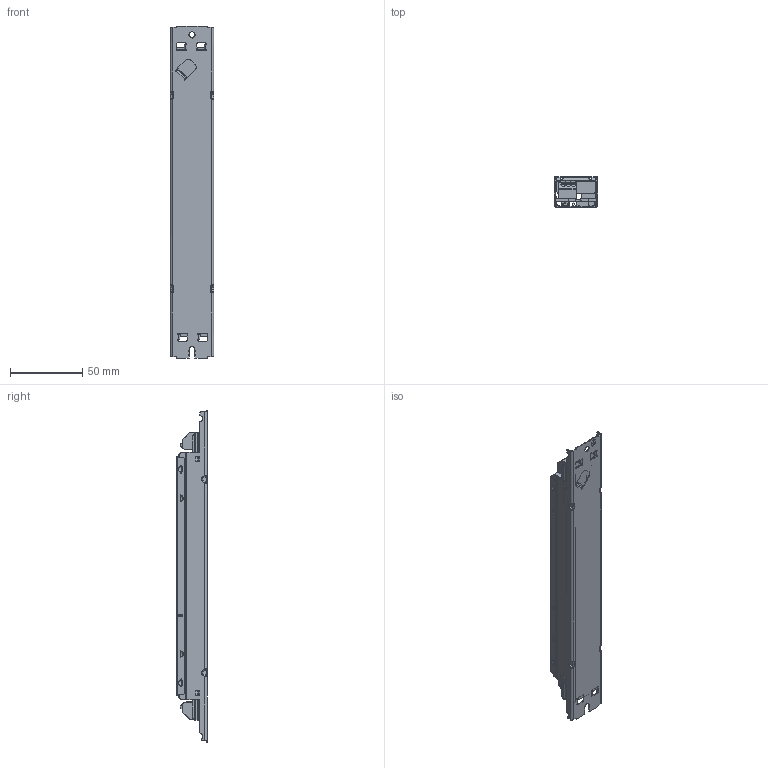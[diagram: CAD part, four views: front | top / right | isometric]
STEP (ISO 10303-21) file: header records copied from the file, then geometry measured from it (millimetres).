
FILE_DESCRIPTION((''),'2;1');
FILE_NAME('15014527Z_DATAMEC_230X30X21','2021-05-12T17:02:34',('elon.guo'),(''),'CREO PARAMETRIC BY PTC INC, 2019164','CREO PARAMETRIC BY PTC INC, 2019164','');
FILE_SCHEMA(('CONFIG_CONTROL_DESIGN'));
Products named in the file (1): 15014527Z_DATAMEC_230X30X21
Bounding box: 30 x 21 x 230 mm (x, y, z)
Volume: 19147.4 mm3; surface area: 91548.2 mm2
Topology: 1 solids, 23 shells, 1828 faces, 4856 edges, 2999 vertices
Faces by surface type: plane 996, cylinder 609, bspline 151, cone 40, sphere 24, torus 8
Entity records: 63411 total; most frequent: CARTESIAN_POINT 18930, ORIENTED_EDGE 9580, DIRECTION 8799, EDGE_CURVE 4824, VECTOR 3069, LINE 3069, VERTEX_POINT 2999, AXIS2_PLACEMENT_3D 2865
